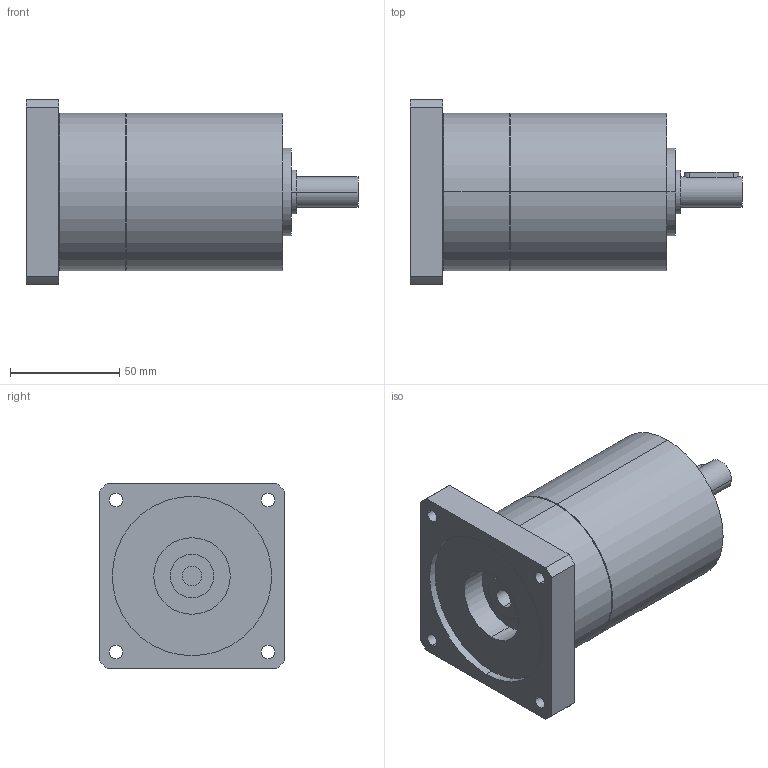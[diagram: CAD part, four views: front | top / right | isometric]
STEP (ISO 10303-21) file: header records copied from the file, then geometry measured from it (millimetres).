
FILE_DESCRIPTION(('CoCreate Modeling STEP Export'),'2;1');
FILE_NAME('GPT75_ig-9-12-16-20-25-28-35-40-50-70-100_14_B14T_9_P36.stp','2014-08-27T13:27:41',(''),(''),'CoCreate Modeling STEP processor for AP214 (Solid Model)','CoCreate Modeling 16.00C 25-Feb-2009 (C) Parametric Technology GmbH','');
FILE_SCHEMA(('AUTOMOTIVE_DESIGN { 1 0 10303 214 1 1 1 1 }'));
Length unit declared in the file: millimetre
Products named in the file (2): GPT75_ig-9-12-16-20-25-28-35-40-50-70-100_14_B14T_9_P36
Assembly tree (1 placements, depth 2):
  GPT75_ig-9-12-16-20-25-28-35-40-50-70-100_14_B14T_9_P36
    GPT75_ig-9-12-16-20-25-28-35-40-50-70-100_14_B14T_9_P36
Bounding box: 152 x 85 x 85 mm (x, y, z)
Volume: 506238.7 mm3; surface area: 49799.4 mm2
Topology: 1 solids, 1 shells, 69 faces, 166 edges, 113 vertices
Faces by surface type: cylinder 42, plane 23, cone 4
Entity records: 2161 total; most frequent: CARTESIAN_POINT 664, ORIENTED_EDGE 332, DIRECTION 262, EDGE_CURVE 166, VERTEX_POINT 113, AXIS2_PLACEMENT_3D 99, EDGE_LOOP 91, FACE_OUTER_BOUND 69
